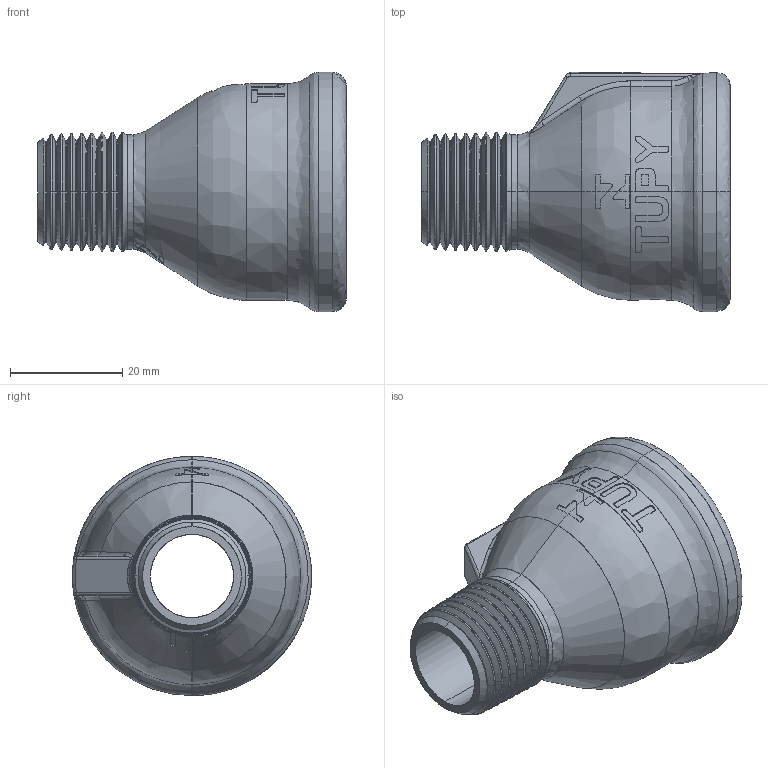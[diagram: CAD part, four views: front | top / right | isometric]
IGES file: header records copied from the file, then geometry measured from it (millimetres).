
Start section: SolidWorks IGES file using analytic representation for surfaces
Global section: file name: C:\Users\Joel Rosa\Desktop\Tubulação\12-35-OK\12-35-032.IGS; native system: SolidWorks 2011; preprocessor: SolidWorks 2011; author: Joel Rosa; date: 121209.031125; units: millimetre
Bounding box: 55 x 42.6 x 42.6 mm (x, y, z)
Surface area: 12535.9 mm2 (no closed solid volume)
Topology: 0 solids, 0 shells, 345 faces, 2834 edges, 2832 vertices
Faces by surface type: bspline 241, revolution 104
